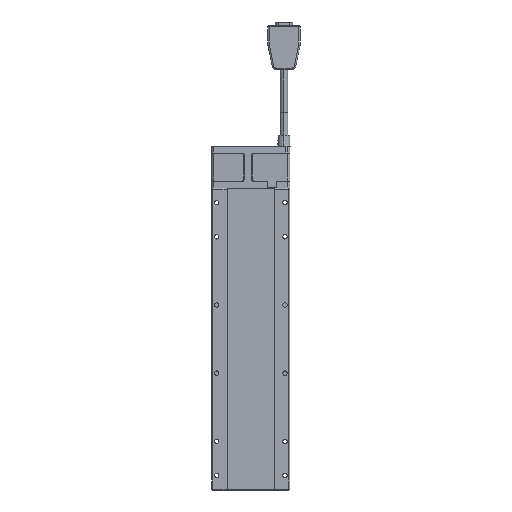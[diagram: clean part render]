
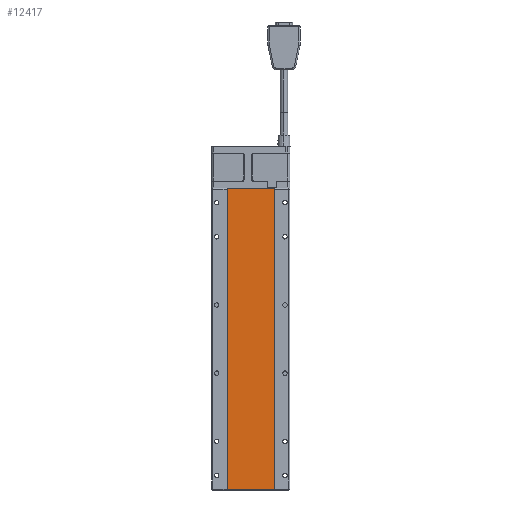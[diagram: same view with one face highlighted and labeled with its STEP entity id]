
A CAD part, front view. The second image highlights one B-rep face of the part: STEP entity #12417.
In plain terms, the highlighted planar face has unit normal (0, -1, 0).
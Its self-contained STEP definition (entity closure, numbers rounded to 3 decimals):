
#4040 = VERTEX_POINT ( 'NONE', #78410 ) ;
#9509 = LINE ( 'NONE', #121997, #38675 ) ;
#9911 = EDGE_CURVE ( 'NONE', #4040, #111818, #9509, .T. ) ;
#12417 = ADVANCED_FACE ( 'NONE', ( #96166 ), #130496, .F. ) ;
#15314 = LINE ( 'NONE', #82464, #115431 ) ;
#15692 = CARTESIAN_POINT ( 'NONE',  ( -24.3, 0.5, 0.2 ) ) ;
#17085 = EDGE_CURVE ( 'NONE', #88372, #4040, #86767, .T. ) ;
#20271 = ORIENTED_EDGE ( 'NONE', *, *, #64465, .T. ) ;
#37608 = VECTOR ( 'NONE', #129221, 1000. ) ;
#38675 = VECTOR ( 'NONE', #89129, 1000. ) ;
#54489 = DIRECTION ( 'NONE',  ( 0., 1., 0. ) ) ;
#59733 = EDGE_CURVE ( 'NONE', #111818, #112301, #15314, .T. ) ;
#62653 = ORIENTED_EDGE ( 'NONE', *, *, #59733, .T. ) ;
#64465 = EDGE_CURVE ( 'NONE', #112301, #88372, #87892, .T. ) ;
#69372 = DIRECTION ( 'NONE',  ( -1., 0., 0. ) ) ;
#76655 = VECTOR ( 'NONE', #121496, 1000. ) ;
#78410 = CARTESIAN_POINT ( 'NONE',  ( 24.3, 0.5, 0.2 ) ) ;
#78984 = ORIENTED_EDGE ( 'NONE', *, *, #9911, .T. ) ;
#82464 = CARTESIAN_POINT ( 'NONE',  ( -24.3, 0.5, 309.8 ) ) ;
#86767 = LINE ( 'NONE', #129945, #37608 ) ;
#87892 = LINE ( 'NONE', #100285, #76655 ) ;
#88372 = VERTEX_POINT ( 'NONE', #15692 ) ;
#89129 = DIRECTION ( 'NONE',  ( 0., 0., 1. ) ) ;
#89365 = EDGE_LOOP ( 'NONE', ( #20271, #131168, #78984, #62653 ) ) ;
#96166 = FACE_OUTER_BOUND ( 'NONE', #89365, .T. ) ;
#96893 = DIRECTION ( 'NONE',  ( -1., 0., 0. ) ) ;
#100285 = CARTESIAN_POINT ( 'NONE',  ( -24.3, 0.5, 0.2 ) ) ;
#105514 = CARTESIAN_POINT ( 'NONE',  ( 24.3, 0.5, 309.8 ) ) ;
#109279 = CARTESIAN_POINT ( 'NONE',  ( -24.3, 0.5, 309.8 ) ) ;
#111818 = VERTEX_POINT ( 'NONE', #105514 ) ;
#112301 = VERTEX_POINT ( 'NONE', #130181 ) ;
#113825 = AXIS2_PLACEMENT_3D ( 'NONE', #109279, #54489, #96893 ) ;
#115431 = VECTOR ( 'NONE', #69372, 1000. ) ;
#121496 = DIRECTION ( 'NONE',  ( 0., 0., -1. ) ) ;
#121997 = CARTESIAN_POINT ( 'NONE',  ( 24.3, 0.5, 0.2 ) ) ;
#129221 = DIRECTION ( 'NONE',  ( 1., 0., 0. ) ) ;
#129945 = CARTESIAN_POINT ( 'NONE',  ( -24.3, 0.5, 0.2 ) ) ;
#130181 = CARTESIAN_POINT ( 'NONE',  ( -24.3, 0.5, 309.8 ) ) ;
#130496 = PLANE ( 'NONE',  #113825 ) ;
#131168 = ORIENTED_EDGE ( 'NONE', *, *, #17085, .T. ) ;
